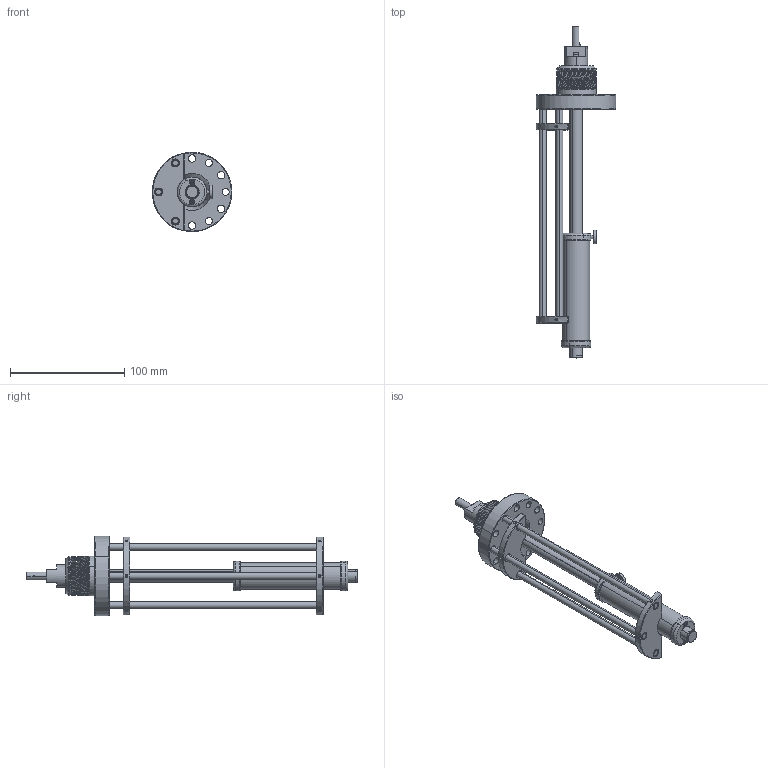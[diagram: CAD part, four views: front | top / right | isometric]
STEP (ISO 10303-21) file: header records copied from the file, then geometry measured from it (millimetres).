
FILE_DESCRIPTION(('Confidential','CAx-IF Rec.Pracs.--- Model Styling and Organization---1.2---2011-12-15','CAx-IF Rec.Pracs.--- Geometric and Assembly Validation Properties ---3.1---2011-10-19'),'2;1');
FILE_NAME('W:\KONSTRUKTION\PRODUCTS\WM\WMHT\WM40HT\WM40HT_Rev_D.stp','2026-09-24T12:37:18+00:00',('none'),('Ferrovac AG'),'CATIA Version 5 Release 21 SP 6 (IN-10)','CATIA V5 STEP AP214 Edition 3','PROPERTY OF FERROVAC AG');
FILE_SCHEMA(('AUTOMOTIVE_DESIGN { 1 0 10303 214 3 1 1 1 }'));
Length unit declared in the file: millimetre
Products named in the file (1): WM40HT_Rev_D
Bounding box: 69.75 x 290.6 x 69.48 mm (x, y, z)
Volume: 133956.9 mm3; surface area: 92095.9 mm2
Topology: 3 solids, 18 shells, 769 faces, 1889 edges, 1182 vertices
Faces by surface type: plane 285, cylinder 211, cone 206, bspline 41, torus 24, sphere 2
Entity records: 25704 total; most frequent: CARTESIAN_POINT 9176, ORIENTED_EDGE 3766, DIRECTION 2317, EDGE_CURVE 1883, AXIS2_PLACEMENT_3D 1270, VERTEX_POINT 1182, EDGE_LOOP 871, ADVANCED_FACE 769
